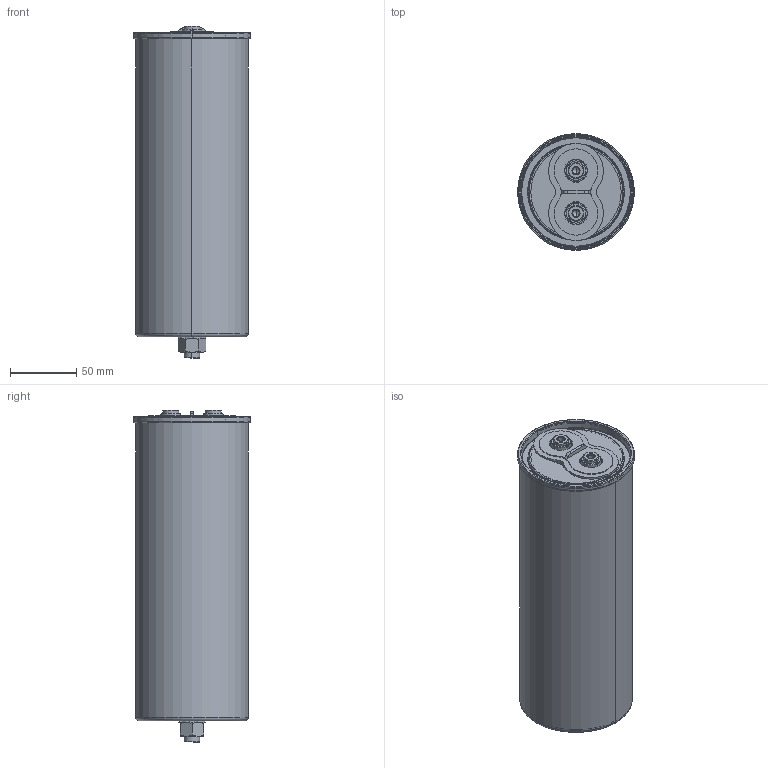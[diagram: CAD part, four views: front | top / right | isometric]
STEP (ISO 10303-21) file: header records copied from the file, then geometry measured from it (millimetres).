
FILE_DESCRIPTION (( 'STEP AP203' ), '1' );
FILE_NAME ('B25680Bx_85x229_234.STEP', '2021-09-10T07:39:54', ( '' ), ( '' ), 'SwSTEP 2.0', 'SolidWorks 2017', '' );
FILE_SCHEMA (( 'CONFIG_CONTROL_DESIGN' ));
Length unit declared in the file: millimetre
Products named in the file (1): B25680Bx_85x229_234
Bounding box: 88 x 88 x 250 mm (x, y, z)
Volume: 81325.1 mm3; surface area: 165510.2 mm2
Topology: 1 solids, 9 shells, 413 faces, 974 edges, 606 vertices
Faces by surface type: plane 163, cylinder 142, cone 42, bspline 36, torus 30
Entity records: 15024 total; most frequent: CARTESIAN_POINT 5318, DIRECTION 2138, ORIENTED_EDGE 1940, EDGE_CURVE 970, AXIS2_PLACEMENT_3D 858, VERTEX_POINT 606, CIRCLE 480, EDGE_LOOP 460
